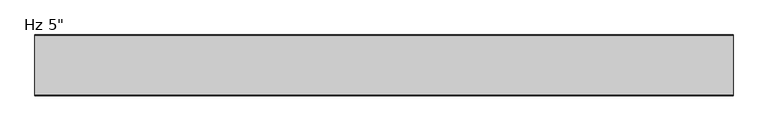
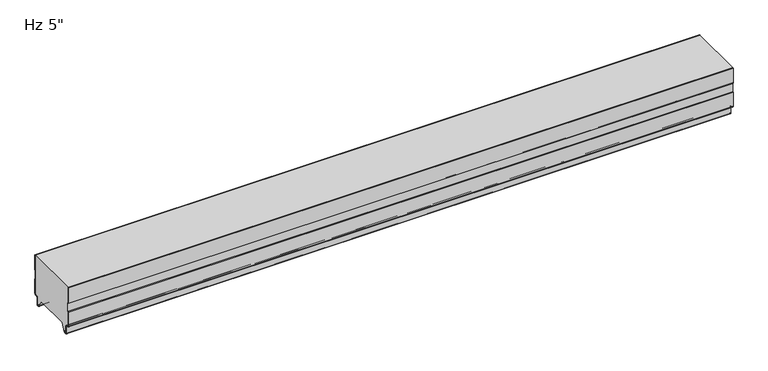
"""IFC4 building model written with IfcOpenShell, lengths in millimetres: plate geometry."""

from ifc_helpers import new_model, si_unit, frame, origin, place, context, project, spatial, polyline, circle_curve, source, transform, mapped, element, save
from ifc_brep_helpers import plane_surface, cylinder_surface, revolved_surface, advanced_brep


def plate_c02493ae(model_context):
    return source(origin(), model_context, "Body", "AdvancedBrep", [
        advanced_brep(
        [(-730.0, -1.0, 59.9218553), (-730.0, -1.0, 94.95), (-730.0, 0.0, 94.95), (-730.0, 0.0, 59.479416), (-730.0, -1.1911595, 58.4068912), (-730.0, -1.1911595, 39.5087751), (-730.0, 0.0, 38.4362503), (-730.0, 0.0, 5.8272193), (-730.0, -2.9772904, 2.8499526), (-730.0, -5.2691742, 2.8499526), (-730.0, -8.2464427, -0.1273159), (-730.0, -8.2464427, -15.7237419), (-730.0, -9.8343193, -17.3116185), (-730.0, -12.905868, -17.3116185), (-730.0, -14.4937445, -15.7237419), (-730.0, -14.4937445, -13.3687064), (-730.0, -13.4937445, -13.3687064), (-730.0, -13.4937445, -15.7237419), (-730.0, -12.905868, -16.3116185), (-730.0, -9.8343193, -16.3116185), (-730.0, -9.2464427, -15.7237419), (-730.0, -9.2464427, -0.1273159), (-730.0, -5.2691742, 3.8499526), (-730.0, -2.9772904, 3.8499526), (-730.0, -1.0000218, 5.82722), (-730.0, -1.0, 37.993811), (-730.0, -2.1911595, 39.0663358), (-730.0, -2.1911595, 58.8493305), (730.0, 0.0, 59.479416), (730.0, 0.0, 94.95), (730.0, -1.0, 94.95), (730.0, -1.0, 59.9218553), (730.0, -2.1911595, 58.8493305), (730.0, -2.1911595, 39.0663358), (730.0, -1.0, 37.993811), (730.0, -1.0, 5.82722), (730.0, -2.9772904, 3.8499526), (730.0, -5.2691742, 3.8499526), (730.0, -9.2464427, -0.1273159), (730.0, -9.2464427, -15.7237419), (730.0, -9.8343193, -16.3116185), (730.0, -12.905868, -16.3116185), (730.0, -13.4937445, -15.7237419), (730.0, -13.4937445, -13.3687064), (730.0, -14.4937445, -13.3687064), (730.0, -14.4937445, -15.7237419), (730.0, -12.905868, -17.3116185), (730.0, -9.8343193, -17.3116185), (730.0, -8.2464427, -15.7237419), (730.0, -8.2464427, -0.1273159), (730.0, -5.2691742, 2.8499526), (730.0, -2.9772904, 2.8499526), (730.0, -2.18e-05, 5.8272193), (730.0, 0.0, 38.4362503), (730.0, -1.1911595, 39.5087751), (730.0, -1.1911595, 58.4068912)],
        [
            (0, 1),
            (1, 2),
            (2, 3),
            (3, 4),
            (4, 5),
            (5, 6),
            (6, 7),
            (7, 8, circle_curve(frame((-730.0, -2.9772904, 5.8272211), z_axis=(-1.0, 0.0, 0.0), x_axis=(0.0, 1.0, 0.0)), 2.9772685)),
            (8, 9),
            (9, 10, circle_curve(frame((-730.0, -5.2691742, -0.1273159), z_axis=(1.0, 0.0, 0.0), x_axis=(0.0, 1.0, 0.0)), 2.9772685)),
            (10, 11),
            (11, 12, circle_curve(frame((-730.0, -9.8343193, -15.7237419), z_axis=(-1.0, 0.0, 0.0), x_axis=(0.0, 1.0, 0.0)), 1.5878765)),
            (12, 13),
            (13, 14, circle_curve(frame((-730.0, -12.905868, -15.7237419), z_axis=(-1.0, 0.0, 0.0), x_axis=(0.0, 1.0, 0.0)), 1.5878765)),
            (14, 15),
            (15, 16),
            (16, 17),
            (17, 18, circle_curve(frame((-730.0, -12.905868, -15.7237419), z_axis=(1.0, 0.0, 0.0), x_axis=(0.0, 1.0, 0.0)), 0.5878765)),
            (18, 19),
            (19, 20, circle_curve(frame((-730.0, -9.8343193, -15.7237419), z_axis=(1.0, 0.0, 0.0), x_axis=(0.0, 1.0, 0.0)), 0.5878765)),
            (20, 21),
            (21, 22, circle_curve(frame((-730.0, -5.2691742, -0.1273159), z_axis=(-1.0, 0.0, 0.0), x_axis=(0.0, 1.0, 0.0)), 3.9772685)),
            (22, 23),
            (23, 24, circle_curve(frame((-730.0, -2.9772904, 5.8272212), z_axis=(1.0, 0.0, 0.0), x_axis=(0.0, 1.0, 0.0)), 1.9772685)),
            (24, 25),
            (25, 26),
            (26, 27),
            (27, 0),
            (28, 29),
            (29, 30),
            (30, 31),
            (31, 32),
            (32, 33),
            (33, 34),
            (34, 35),
            (35, 36, circle_curve(frame((730.0, -2.9772904, 5.8272212), z_axis=(-1.0, 0.0, 0.0), x_axis=(0.0, 1.0, 0.0)), 1.9772685)),
            (36, 37),
            (37, 38, circle_curve(frame((730.0, -5.2691742, -0.1273159), z_axis=(1.0, 0.0, 0.0), x_axis=(0.0, 1.0, 0.0)), 3.9772685)),
            (38, 39),
            (39, 40, circle_curve(frame((730.0, -9.8343193, -15.7237419), z_axis=(-1.0, 0.0, 0.0), x_axis=(0.0, 1.0, 0.0)), 0.5878765)),
            (40, 41),
            (41, 42, circle_curve(frame((730.0, -12.905868, -15.7237419), z_axis=(-1.0, 0.0, 0.0), x_axis=(0.0, 1.0, 0.0)), 0.5878765)),
            (42, 43),
            (43, 44),
            (44, 45),
            (45, 46, circle_curve(frame((730.0, -12.905868, -15.7237419), z_axis=(1.0, 0.0, 0.0), x_axis=(0.0, 1.0, 0.0)), 1.5878765)),
            (46, 47),
            (47, 48, circle_curve(frame((730.0, -9.8343193, -15.7237419), z_axis=(1.0, 0.0, 0.0), x_axis=(0.0, 1.0, 0.0)), 1.5878765)),
            (48, 49),
            (49, 50, circle_curve(frame((730.0, -5.2691742, -0.1273159), z_axis=(-1.0, 0.0, 0.0), x_axis=(0.0, 1.0, 0.0)), 2.9772685)),
            (50, 51),
            (51, 52, circle_curve(frame((730.0, -2.9772904, 5.8272211), z_axis=(1.0, 0.0, 0.0), x_axis=(0.0, 1.0, 0.0)), 2.9772685)),
            (52, 53),
            (53, 54),
            (54, 55),
            (55, 28),
            (30, 1),
            (0, 31),
            (27, 32),
            (26, 33),
            (25, 34),
            (24, 35),
            (23, 36),
            (22, 37),
            (21, 38),
            (20, 39),
            (19, 40),
            (18, 41),
            (17, 42),
            (16, 43),
            (15, 44),
            (14, 45),
            (13, 46),
            (12, 47),
            (11, 48),
            (10, 49),
            (9, 50),
            (8, 51),
            (7, 52),
            (6, 53),
            (5, 54),
            (4, 55),
            (3, 28),
            (2, 29),
        ],
        [
            plane_surface(frame((-730.0, 0.0, 576.2625), z_axis=(-1.0, 0.0, 0.0), x_axis=(0.0, 1.0, 0.0))),
            plane_surface(frame((730.0, 0.0, 576.2625), z_axis=(1.0, 0.0, 0.0), x_axis=(0.0, 1.0, 0.0))),
            plane_surface(frame((-730.0, -1.0, 113.6164312), z_axis=(0.0, -1.0, 0.0), x_axis=(1.0, 0.0, 0.0))),
            plane_surface(frame((-730.0, -1.0, 59.9218553), z_axis=(0.0, -0.6691306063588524, 0.7431448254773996), x_axis=(1.0, 0.0, 0.0))),
            plane_surface(frame((-730.0, -2.1911595, 58.8493305), z_axis=(0.0, -1.0, 0.0), x_axis=(1.0, 0.0, 0.0))),
            plane_surface(frame((-730.0, -2.1911595, 39.0663358), z_axis=(0.0, -0.6691306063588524, -0.7431448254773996), x_axis=(1.0, 0.0, 0.0))),
            plane_surface(frame((-730.0, -1.0, 37.993811), z_axis=(0.0, -1.0, 0.0), x_axis=(1.0, 0.0, 0.0))),
            revolved_surface(polyline([(730.0, -1.0000218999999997, 5.8272212), (-730.0, -1.0000218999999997, 5.8272212)]), (-730.0, -2.9772904, 5.8272212), (1.0, 0.0, 0.0)),
            plane_surface(frame((-730.0, -2.9772904, 3.8499526), z_axis=(0.0, 0.0, 1.0), x_axis=(1.0, 0.0, 0.0))),
            cylinder_surface(frame((-730.0, -5.2691742, -0.1273159), z_axis=(-1.0, 0.0, 0.0), x_axis=(0.0, 1.0, 0.0)), 3.9772685),
            plane_surface(frame((-730.0, -9.2464427, -0.1273159), z_axis=(0.0, -1.0, 0.0), x_axis=(1.0, 0.0, 0.0))),
            revolved_surface(polyline([(730.0, -9.2464428, -15.7237419), (-730.0, -9.2464428, -15.7237419)]), (-730.0, -9.8343193, -15.7237419), (1.0, 0.0, 0.0)),
            plane_surface(frame((-730.0, -9.8343193, -16.3116185), z_axis=(0.0, 0.0, 1.0), x_axis=(1.0, 0.0, 0.0))),
            revolved_surface(polyline([(730.0, -12.3179915, -15.7237419), (-730.0, -12.3179915, -15.7237419)]), (-730.0, -12.905868, -15.7237419), (1.0, 0.0, 0.0)),
            plane_surface(frame((-730.0, -13.4937445, -15.7237419), z_axis=(0.0, 1.0, 0.0), x_axis=(1.0, 0.0, 0.0))),
            plane_surface(frame((-730.0, -13.4937445, -13.3687064), z_axis=(0.0, 0.0, 1.0), x_axis=(1.0, 0.0, 0.0))),
            plane_surface(frame((-730.0, -14.4937445, -13.3687064), z_axis=(0.0, -1.0, 0.0), x_axis=(1.0, 0.0, 0.0))),
            cylinder_surface(frame((-730.0, -12.905868, -15.7237419), z_axis=(-1.0, 0.0, 0.0), x_axis=(0.0, 1.0, 0.0)), 1.5878765),
            plane_surface(frame((-730.0, -12.905868, -17.3116185), z_axis=(0.0, 0.0, -1.0), x_axis=(1.0, 0.0, 0.0))),
            cylinder_surface(frame((-730.0, -9.8343193, -15.7237419), z_axis=(-1.0, 0.0, 0.0), x_axis=(0.0, 1.0, 0.0)), 1.5878765),
            plane_surface(frame((-730.0, -8.2464427, -15.7237419), z_axis=(0.0, 1.0, 0.0), x_axis=(1.0, 0.0, 0.0))),
            revolved_surface(polyline([(730.0, -2.2919057, -0.1273159), (-730.0, -2.2919057, -0.1273159)]), (-730.0, -5.2691742, -0.1273159), (1.0, 0.0, 0.0)),
            plane_surface(frame((-730.0, -5.2691742, 2.8499526), z_axis=(0.0, 0.0, -1.0), x_axis=(1.0, 0.0, 0.0))),
            cylinder_surface(frame((-730.0, -2.9772904, 5.8272211), z_axis=(-1.0, 0.0, 0.0), x_axis=(0.0, 1.0, 0.0)), 2.9772685),
            plane_surface(frame((-730.0, 0.0, 5.8272193), z_axis=(0.0, 1.0, 0.0), x_axis=(1.0, 0.0, 0.0))),
            plane_surface(frame((-730.0, 0.0, 38.4362503), z_axis=(0.0, 0.6691306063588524, 0.7431448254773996), x_axis=(1.0, 0.0, 0.0))),
            plane_surface(frame((-730.0, -1.1911595, 39.5087751), z_axis=(0.0, 1.0, 0.0), x_axis=(1.0, 0.0, 0.0))),
            plane_surface(frame((-730.0, -1.1911595, 58.4068912), z_axis=(0.0, 0.6691306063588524, -0.7431448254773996), x_axis=(1.0, 0.0, 0.0))),
            plane_surface(frame((-730.0, 0.0, 59.479416), z_axis=(0.0, 1.0, 0.0), x_axis=(1.0, 0.0, 0.0))),
            plane_surface(frame((730.0, 10.0, 94.95), z_axis=(0.0, 0.0, 1.0), x_axis=(-1.0, 0.0, 0.0))),
        ],
        [
            (0, [[1, 2, 3, 4, 5, 6, 7, 8, 9, 10, 11, 12, 13, 14, 15, 16, 17, 18, 19, 20, 21, 22, 23, 24, 25, 26, 27, 28]]),
            (1, [[29, 30, 31, 32, 33, 34, 35, 36, 37, 38, 39, 40, 41, 42, 43, 44, 45, 46, 47, 48, 49, 50, 51, 52, 53, 54, 55, 56]]),
            (2, [[-31, 57, -1, 58]]),
            (3, [[59, -32, -58, -28]]),
            (4, [[60, -33, -59, -27]]),
            (5, [[61, -34, -60, -26]]),
            (6, [[62, -35, -61, -25]]),
            (7, [[63, -36, -62, -24]]),
            (8, [[64, -37, -63, -23]]),
            (9, [[65, -38, -64, -22]]),
            (10, [[66, -39, -65, -21]]),
            (11, [[67, -40, -66, -20]]),
            (12, [[68, -41, -67, -19]]),
            (13, [[69, -42, -68, -18]]),
            (14, [[70, -43, -69, -17]]),
            (15, [[71, -44, -70, -16]]),
            (16, [[72, -45, -71, -15]]),
            (17, [[73, -46, -72, -14]]),
            (18, [[74, -47, -73, -13]]),
            (19, [[75, -48, -74, -12]]),
            (20, [[76, -49, -75, -11]]),
            (21, [[77, -50, -76, -10]]),
            (22, [[78, -51, -77, -9]]),
            (23, [[79, -52, -78, -8]]),
            (24, [[80, -53, -79, -7]]),
            (25, [[81, -54, -80, -6]]),
            (26, [[82, -55, -81, -5]]),
            (27, [[83, -56, -82, -4]]),
            (28, [[-3, 84, -29, -83]]),
            (29, [[-57, -30, -84, -2]]),
        ],
    ),
        advanced_brep(
        [(-730.0, -127.0, 59.479416), (-730.0, -127.0, 94.95), (-730.0, -126.0, 94.95), (-730.0, -126.0, 59.9218553), (-730.0, -124.8088405, 58.8493305), (-730.0, -124.8088405, 39.0663358), (-730.0, -126.0, 37.993811), (-730.0, -126.0, 5.82722), (-730.0, -124.0227096, 3.8499526), (-730.0, -121.7308258, 3.8499526), (-730.0, -117.7535573, -0.1273159), (-730.0, -117.7535573, -15.7237419), (-730.0, -117.1656807, -16.3116185), (-730.0, -114.094132, -16.3116185), (-730.0, -113.5062555, -15.7237419), (-730.0, -113.5062555, -13.3687064), (-730.0, -112.5062555, -13.3687064), (-730.0, -112.5062555, -15.7237419), (-730.0, -114.094132, -17.3116185), (-730.0, -117.1656807, -17.3116185), (-730.0, -118.7535573, -15.7237419), (-730.0, -118.7535573, -0.1273159), (-730.0, -121.7308258, 2.8499526), (-730.0, -124.0227096, 2.8499526), (-730.0, -126.9999782, 5.8272193), (-730.0, -127.0, 38.4362503), (-730.0, -125.8088405, 39.5087751), (-730.0, -125.8088405, 58.4068912), (730.0, -126.0, 59.9218553), (730.0, -126.0, 94.95), (730.0, -127.0, 94.95), (730.0, -127.0, 59.479416), (730.0, -125.8088405, 58.4068912), (730.0, -125.8088405, 39.5087751), (730.0, -127.0, 38.4362503), (730.0, -127.0, 5.8272193), (730.0, -124.0227096, 2.8499526), (730.0, -121.7308258, 2.8499526), (730.0, -118.7535573, -0.1273159), (730.0, -118.7535573, -15.7237419), (730.0, -117.1656807, -17.3116185), (730.0, -114.094132, -17.3116185), (730.0, -112.5062555, -15.7237419), (730.0, -112.5062555, -13.3687064), (730.0, -113.5062555, -13.3687064), (730.0, -113.5062555, -15.7237419), (730.0, -114.094132, -16.3116185), (730.0, -117.1656807, -16.3116185), (730.0, -117.7535573, -15.7237419), (730.0, -117.7535573, -0.1273159), (730.0, -121.7308258, 3.8499526), (730.0, -124.0227096, 3.8499526), (730.0, -125.9999782, 5.82722), (730.0, -126.0, 37.993811), (730.0, -124.8088405, 39.0663358), (730.0, -124.8088405, 58.8493305)],
        [
            (0, 1),
            (1, 2),
            (2, 3),
            (3, 4),
            (4, 5),
            (5, 6),
            (6, 7),
            (7, 8, circle_curve(frame((-730.0, -124.0227096, 5.8272212), z_axis=(1.0, 0.0, 0.0), x_axis=(0.0, 0.0, -1.0)), 1.9772685)),
            (8, 9),
            (9, 10, circle_curve(frame((-730.0, -121.7308258, -0.1273159), z_axis=(-1.0, 0.0, 0.0), x_axis=(0.0, 0.0, -1.0)), 3.9772685)),
            (10, 11),
            (11, 12, circle_curve(frame((-730.0, -117.1656807, -15.7237419), z_axis=(1.0, 0.0, 0.0), x_axis=(0.0, 0.0, -1.0)), 0.5878765)),
            (12, 13),
            (13, 14, circle_curve(frame((-730.0, -114.094132, -15.7237419), z_axis=(1.0, 0.0, 0.0), x_axis=(0.0, 0.0, -1.0)), 0.5878765)),
            (14, 15),
            (15, 16),
            (16, 17),
            (17, 18, circle_curve(frame((-730.0, -114.094132, -15.7237419), z_axis=(-1.0, 0.0, 0.0), x_axis=(0.0, 0.0, -1.0)), 1.5878765)),
            (18, 19),
            (19, 20, circle_curve(frame((-730.0, -117.1656807, -15.7237419), z_axis=(-1.0, 0.0, 0.0), x_axis=(0.0, 0.0, -1.0)), 1.5878765)),
            (20, 21),
            (21, 22, circle_curve(frame((-730.0, -121.7308258, -0.1273159), z_axis=(1.0, 0.0, 0.0), x_axis=(0.0, 0.0, -1.0)), 2.9772685)),
            (22, 23),
            (23, 24, circle_curve(frame((-730.0, -124.0227096, 5.8272211), z_axis=(-1.0, 0.0, 0.0), x_axis=(0.0, 0.0, -1.0)), 2.9772685)),
            (24, 25),
            (25, 26),
            (26, 27),
            (27, 0),
            (28, 29),
            (29, 30),
            (30, 31),
            (31, 32),
            (32, 33),
            (33, 34),
            (34, 35),
            (35, 36, circle_curve(frame((730.0, -124.0227096, 5.8272211), z_axis=(1.0, 0.0, 0.0), x_axis=(0.0, 0.0, -1.0)), 2.9772685)),
            (36, 37),
            (37, 38, circle_curve(frame((730.0, -121.7308258, -0.1273159), z_axis=(-1.0, 0.0, 0.0), x_axis=(0.0, 0.0, -1.0)), 2.9772685)),
            (38, 39),
            (39, 40, circle_curve(frame((730.0, -117.1656807, -15.7237419), z_axis=(1.0, 0.0, 0.0), x_axis=(0.0, 0.0, -1.0)), 1.5878765)),
            (40, 41),
            (41, 42, circle_curve(frame((730.0, -114.094132, -15.7237419), z_axis=(1.0, 0.0, 0.0), x_axis=(0.0, 0.0, -1.0)), 1.5878765)),
            (42, 43),
            (43, 44),
            (44, 45),
            (45, 46, circle_curve(frame((730.0, -114.094132, -15.7237419), z_axis=(-1.0, 0.0, 0.0), x_axis=(0.0, 0.0, -1.0)), 0.5878765)),
            (46, 47),
            (47, 48, circle_curve(frame((730.0, -117.1656807, -15.7237419), z_axis=(-1.0, 0.0, 0.0), x_axis=(0.0, 0.0, -1.0)), 0.5878765)),
            (48, 49),
            (49, 50, circle_curve(frame((730.0, -121.7308258, -0.1273159), z_axis=(1.0, 0.0, 0.0), x_axis=(0.0, 0.0, -1.0)), 3.9772685)),
            (50, 51),
            (51, 52, circle_curve(frame((730.0, -124.0227096, 5.8272212), z_axis=(-1.0, 0.0, 0.0), x_axis=(0.0, 0.0, -1.0)), 1.9772685)),
            (52, 53),
            (53, 54),
            (54, 55),
            (55, 28),
            (1, 30),
            (29, 2),
            (0, 31),
            (27, 32),
            (26, 33),
            (25, 34),
            (24, 35),
            (23, 36),
            (22, 37),
            (21, 38),
            (20, 39),
            (19, 40),
            (18, 41),
            (17, 42),
            (16, 43),
            (15, 44),
            (14, 45),
            (13, 46),
            (12, 47),
            (11, 48),
            (10, 49),
            (9, 50),
            (8, 51),
            (7, 52),
            (6, 53),
            (5, 54),
            (4, 55),
            (3, 28),
        ],
        [
            plane_surface(frame((-730.0, -127.0, 576.2625), z_axis=(-1.0, 0.0, 0.0), x_axis=(0.0, -1.0, 0.0))),
            plane_surface(frame((730.0, -127.0, 576.2625), z_axis=(1.0, 0.0, 0.0), x_axis=(0.0, -1.0, 0.0))),
            plane_surface(frame((730.0, 10.0, 94.95), z_axis=(0.0, 0.0, 1.0), x_axis=(-1.0, 0.0, 0.0))),
            plane_surface(frame((-730.0, -127.0, 114.0588705), z_axis=(0.0, -1.0, 0.0), x_axis=(1.0, 0.0, 0.0))),
            plane_surface(frame((-730.0, -127.0, 59.479416), z_axis=(0.0, -0.6691306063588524, -0.7431448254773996), x_axis=(1.0, 0.0, 0.0))),
            plane_surface(frame((-730.0, -125.8088405, 58.4068912), z_axis=(0.0, -1.0, 0.0), x_axis=(1.0, 0.0, 0.0))),
            plane_surface(frame((-730.0, -125.8088405, 39.5087751), z_axis=(0.0, -0.6691306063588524, 0.7431448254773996), x_axis=(1.0, 0.0, 0.0))),
            plane_surface(frame((-730.0, -127.0, 38.4362503), z_axis=(0.0, -1.0, 0.0), x_axis=(1.0, 0.0, 0.0))),
            cylinder_surface(frame((-730.0, -124.0227096, 5.8272211), z_axis=(-1.0, 0.0, 0.0), x_axis=(0.0, 0.0, -1.0)), 2.9772685),
            plane_surface(frame((-730.0, -124.0227096, 2.8499526), z_axis=(0.0, 0.0, -1.0), x_axis=(1.0, 0.0, 0.0))),
            revolved_surface(polyline([(730.0, -121.7308258, -3.1045844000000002), (-730.0, -121.7308258, -3.1045844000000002)]), (-730.0, -121.7308258, -0.1273159), (1.0, 0.0, 0.0)),
            plane_surface(frame((-730.0, -118.7535573, -0.1273159), z_axis=(0.0, -1.0, 0.0), x_axis=(1.0, 0.0, 0.0))),
            cylinder_surface(frame((-730.0, -117.1656807, -15.7237419), z_axis=(-1.0, 0.0, 0.0), x_axis=(0.0, 0.0, -1.0)), 1.5878765),
            plane_surface(frame((-730.0, -117.1656807, -17.3116185), z_axis=(0.0, 0.0, -1.0), x_axis=(1.0, 0.0, 0.0))),
            cylinder_surface(frame((-730.0, -114.094132, -15.7237419), z_axis=(-1.0, 0.0, 0.0), x_axis=(0.0, 0.0, -1.0)), 1.5878765),
            plane_surface(frame((-730.0, -112.5062555, -15.7237419), z_axis=(0.0, 1.0, 0.0), x_axis=(1.0, 0.0, 0.0))),
            plane_surface(frame((-730.0, -112.5062555, -13.3687064), z_axis=(0.0, 0.0, 1.0), x_axis=(1.0, 0.0, 0.0))),
            plane_surface(frame((-730.0, -113.5062555, -13.3687064), z_axis=(0.0, -1.0, 0.0), x_axis=(1.0, 0.0, 0.0))),
            revolved_surface(polyline([(730.0, -114.094132, -16.3116184), (-730.0, -114.094132, -16.3116184)]), (-730.0, -114.094132, -15.7237419), (1.0, 0.0, 0.0)),
            plane_surface(frame((-730.0, -114.094132, -16.3116185), z_axis=(0.0, 0.0, 1.0), x_axis=(1.0, 0.0, 0.0))),
            revolved_surface(polyline([(730.0, -117.1656807, -16.3116184), (-730.0, -117.1656807, -16.3116184)]), (-730.0, -117.1656807, -15.7237419), (1.0, 0.0, 0.0)),
            plane_surface(frame((-730.0, -117.7535573, -15.7237419), z_axis=(0.0, 1.0, 0.0), x_axis=(1.0, 0.0, 0.0))),
            cylinder_surface(frame((-730.0, -121.7308258, -0.1273159), z_axis=(-1.0, 0.0, 0.0), x_axis=(0.0, 0.0, -1.0)), 3.9772685),
            plane_surface(frame((-730.0, -121.7308258, 3.8499526), z_axis=(0.0, 0.0, 1.0), x_axis=(1.0, 0.0, 0.0))),
            revolved_surface(polyline([(730.0, -124.0227096, 3.8499527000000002), (-730.0, -124.0227096, 3.8499527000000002)]), (-730.0, -124.0227096, 5.8272212), (1.0, 0.0, 0.0)),
            plane_surface(frame((-730.0, -126.0, 5.82722), z_axis=(0.0, 1.0, 0.0), x_axis=(1.0, 0.0, 0.0))),
            plane_surface(frame((-730.0, -126.0, 37.993811), z_axis=(0.0, 0.6691306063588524, -0.7431448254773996), x_axis=(1.0, 0.0, 0.0))),
            plane_surface(frame((-730.0, -124.8088405, 39.0663358), z_axis=(0.0, 1.0, 0.0), x_axis=(1.0, 0.0, 0.0))),
            plane_surface(frame((-730.0, -124.8088405, 58.8493305), z_axis=(0.0, 0.6691306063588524, 0.7431448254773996), x_axis=(1.0, 0.0, 0.0))),
            plane_surface(frame((-730.0, -126.0, 59.9218553), z_axis=(0.0, 1.0, 0.0), x_axis=(1.0, 0.0, 0.0))),
        ],
        [
            (0, [[1, 2, 3, 4, 5, 6, 7, 8, 9, 10, 11, 12, 13, 14, 15, 16, 17, 18, 19, 20, 21, 22, 23, 24, 25, 26, 27, 28]]),
            (1, [[29, 30, 31, 32, 33, 34, 35, 36, 37, 38, 39, 40, 41, 42, 43, 44, 45, 46, 47, 48, 49, 50, 51, 52, 53, 54, 55, 56]]),
            (2, [[57, -30, 58, -2]]),
            (3, [[-31, -57, -1, 59]]),
            (4, [[60, -32, -59, -28]]),
            (5, [[61, -33, -60, -27]]),
            (6, [[62, -34, -61, -26]]),
            (7, [[63, -35, -62, -25]]),
            (8, [[64, -36, -63, -24]]),
            (9, [[65, -37, -64, -23]]),
            (10, [[66, -38, -65, -22]]),
            (11, [[67, -39, -66, -21]]),
            (12, [[68, -40, -67, -20]]),
            (13, [[69, -41, -68, -19]]),
            (14, [[70, -42, -69, -18]]),
            (15, [[71, -43, -70, -17]]),
            (16, [[72, -44, -71, -16]]),
            (17, [[73, -45, -72, -15]]),
            (18, [[74, -46, -73, -14]]),
            (19, [[75, -47, -74, -13]]),
            (20, [[76, -48, -75, -12]]),
            (21, [[77, -49, -76, -11]]),
            (22, [[78, -50, -77, -10]]),
            (23, [[79, -51, -78, -9]]),
            (24, [[80, -52, -79, -8]]),
            (25, [[81, -53, -80, -7]]),
            (26, [[82, -54, -81, -6]]),
            (27, [[83, -55, -82, -5]]),
            (28, [[84, -56, -83, -4]]),
            (29, [[-3, -58, -29, -84]]),
        ],
    ),
        advanced_brep(
        [(-730.0, -126.0, 59.9218553), (-730.0, -126.0, 94.95), (-730.0, -1.0, 94.95), (-730.0, -1.0, 59.9218553), (-730.0, -2.1911595, 58.8493305), (-730.0, -2.1911595, 39.0663358), (-730.0, -1.0000109, 37.993811), (-730.0, -1.0000109, 5.8272239), (-730.0, -2.9772849, 3.8499499), (-730.0, -5.2691749, 3.8499499), (-730.0, -9.246442, -0.1273173), (-730.0, -9.246442, -15.7237417), (-730.0, -9.8343189, -16.3116186), (-730.0, -12.9058679, -16.3116186), (-730.0, -13.4937446, -15.723742), (-730.0, -13.4937446, -13.3687064), (-730.0, -14.4937446, -13.3687064), (-730.0, -14.4937446, -15.6582851), (-730.0, -23.7509179, 0.0), (-730.0, -103.2490865, 0.0), (-730.0, -112.5062554, -15.6582851), (-730.0, -112.5062554, -13.3687064), (-730.0, -113.5062554, -13.3687064), (-730.0, -113.5062554, -15.723742), (-730.0, -114.0941321, -16.3116186), (-730.0, -117.1656811, -16.3116186), (-730.0, -117.753558, -15.7237417), (-730.0, -117.753558, -0.1273173), (-730.0, -121.7308251, 3.8499499), (-730.0, -124.0227151, 3.8499499), (-730.0, -125.9999891, 5.8272239), (-730.0, -125.9999891, 37.993811), (-730.0, -124.8088405, 39.0663358), (-730.0, -124.8088405, 58.8493305), (730.0, -103.2490865, 0.0), (730.0, -23.7509179, 0.0), (730.0, -14.4937446, -15.6582851), (730.0, -14.4937446, -13.3687064), (730.0, -13.4937446, -13.3687064), (730.0, -13.4937446, -15.723742), (730.0, -12.9058679, -16.3116186), (730.0, -9.8343189, -16.3116186), (730.0, -9.246442, -15.7237417), (730.0, -9.246442, -0.1273173), (730.0, -5.2691749, 3.8499499), (730.0, -2.9772849, 3.8499499), (730.0, -1.0000109, 5.8272239), (730.0, -1.0000109, 37.993811), (730.0, -2.1911595, 39.0663358), (730.0, -2.1911595, 58.8493305), (730.0, -1.0, 59.9218553), (730.0, -1.0, 94.95), (730.0, -126.0, 94.95), (730.0, -126.0, 59.9218553), (730.0, -124.8088405, 58.8493305), (730.0, -124.8088405, 39.0663358), (730.0, -125.9999891, 37.993811), (730.0, -125.9999891, 5.8272239), (730.0, -124.0227151, 3.8499499), (730.0, -121.7308251, 3.8499499), (730.0, -117.753558, -0.1273173), (730.0, -117.753558, -15.7237417), (730.0, -117.1656811, -16.3116186), (730.0, -114.0941321, -16.3116186), (730.0, -113.5062554, -15.723742), (730.0, -113.5062554, -13.3687064), (730.0, -112.5062554, -13.3687064), (730.0, -112.5062554, -15.6582851)],
        [
            (0, 1),
            (1, 2),
            (2, 3),
            (3, 4),
            (4, 5),
            (5, 6),
            (6, 7),
            (7, 8, circle_curve(frame((-730.0, -2.9772849, 5.8272239), z_axis=(-1.0, 0.0, 0.0), x_axis=(0.0, 1.0, 0.0)), 1.977274)),
            (8, 9),
            (9, 10, circle_curve(frame((-730.0, -5.2691749, -0.1273173), z_axis=(1.0, 0.0, 0.0), x_axis=(0.0, 1.0, 0.0)), 3.9772671)),
            (10, 11),
            (11, 12, circle_curve(frame((-730.0, -9.8343189, -15.7237417), z_axis=(-1.0, 0.0, 0.0), x_axis=(0.0, 1.0, 0.0)), 0.5878769)),
            (12, 13),
            (13, 14, circle_curve(frame((-730.0, -12.9058679, -15.723742), z_axis=(-1.0, 0.0, 0.0), x_axis=(0.0, 1.0, 0.0)), 0.5878766)),
            (14, 15),
            (15, 16),
            (16, 17),
            (17, 18),
            (18, 19),
            (19, 20),
            (20, 21),
            (21, 22),
            (22, 23),
            (23, 24, circle_curve(frame((-730.0, -114.0941321, -15.723742), z_axis=(-1.0, 0.0, 0.0), x_axis=(0.0, 0.0, -1.0)), 0.5878766)),
            (24, 25),
            (25, 26, circle_curve(frame((-730.0, -117.1656811, -15.7237417), z_axis=(-1.0, 0.0, 0.0), x_axis=(0.0, 0.0, -1.0)), 0.5878769)),
            (26, 27),
            (27, 28, circle_curve(frame((-730.0, -121.7308251, -0.1273173), z_axis=(1.0, 0.0, 0.0), x_axis=(0.0, 0.0, -1.0)), 3.9772671)),
            (28, 29),
            (29, 30, circle_curve(frame((-730.0, -124.0227151, 5.8272239), z_axis=(-1.0, 0.0, 0.0), x_axis=(0.0, 0.0, -1.0)), 1.977274)),
            (30, 31),
            (31, 32),
            (32, 33),
            (33, 0),
            (34, 35),
            (35, 36),
            (36, 37),
            (37, 38),
            (38, 39),
            (39, 40, circle_curve(frame((730.0, -12.9058679, -15.723742), z_axis=(1.0, 0.0, 0.0), x_axis=(0.0, 1.0, 0.0)), 0.5878766)),
            (40, 41),
            (41, 42, circle_curve(frame((730.0, -9.8343189, -15.7237417), z_axis=(1.0, 0.0, 0.0), x_axis=(0.0, 1.0, 0.0)), 0.5878769)),
            (42, 43),
            (43, 44, circle_curve(frame((730.0, -5.2691749, -0.1273173), z_axis=(-1.0, 0.0, 0.0), x_axis=(0.0, 1.0, 0.0)), 3.9772671)),
            (44, 45),
            (45, 46, circle_curve(frame((730.0, -2.9772849, 5.8272239), z_axis=(1.0, 0.0, 0.0), x_axis=(0.0, 1.0, 0.0)), 1.977274)),
            (46, 47),
            (47, 48),
            (48, 49),
            (49, 50),
            (50, 51),
            (51, 52),
            (52, 53),
            (53, 54),
            (54, 55),
            (55, 56),
            (56, 57),
            (57, 58, circle_curve(frame((730.0, -124.0227151, 5.8272239), z_axis=(1.0, 0.0, 0.0), x_axis=(0.0, 0.0, -1.0)), 1.977274)),
            (58, 59),
            (59, 60, circle_curve(frame((730.0, -121.7308251, -0.1273173), z_axis=(-1.0, 0.0, 0.0), x_axis=(0.0, 0.0, -1.0)), 3.9772671)),
            (60, 61),
            (61, 62, circle_curve(frame((730.0, -117.1656811, -15.7237417), z_axis=(1.0, 0.0, 0.0), x_axis=(0.0, 0.0, -1.0)), 0.5878769)),
            (62, 63),
            (63, 64, circle_curve(frame((730.0, -114.0941321, -15.723742), z_axis=(1.0, 0.0, 0.0), x_axis=(0.0, 0.0, -1.0)), 0.5878766)),
            (64, 65),
            (65, 66),
            (66, 67),
            (67, 34),
            (17, 36),
            (35, 18),
            (16, 37),
            (15, 38),
            (14, 39),
            (13, 40),
            (12, 41),
            (11, 42),
            (10, 43),
            (9, 44),
            (8, 45),
            (7, 46),
            (6, 47),
            (5, 48),
            (4, 49),
            (3, 50),
            (2, 51),
            (34, 19),
            (1, 52),
            (0, 53),
            (33, 54),
            (32, 55),
            (31, 56),
            (30, 57),
            (29, 58),
            (28, 59),
            (27, 60),
            (26, 61),
            (25, 62),
            (24, 63),
            (23, 64),
            (22, 65),
            (21, 66),
            (20, 67),
        ],
        [
            plane_surface(frame((-730.0, -126.0, 576.2625), z_axis=(-1.0, 0.0, 0.0), x_axis=(0.0, -1.0, 0.0))),
            plane_surface(frame((730.0, -126.0, 576.2625), z_axis=(1.0, 0.0, 0.0), x_axis=(0.0, -1.0, 0.0))),
            plane_surface(frame((-730.0, -23.7509179, 0.0), z_axis=(0.0, -0.8608169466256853, -0.5089147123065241), x_axis=(1.0, 0.0, 0.0))),
            plane_surface(frame((-730.0, -14.4937446, -15.6582851), z_axis=(0.0, 1.0, 0.0), x_axis=(1.0, 0.0, 0.0))),
            plane_surface(frame((-730.0, -14.4937446, -13.3687064), z_axis=(0.0, 0.0, -1.0), x_axis=(1.0, 0.0, 0.0))),
            plane_surface(frame((-730.0, -13.4937446, -13.3687064), z_axis=(0.0, -1.0, 0.0), x_axis=(1.0, 0.0, 0.0))),
            cylinder_surface(frame((-730.0, -12.9058679, -15.723742), z_axis=(-1.0, 0.0, 0.0), x_axis=(0.0, 1.0, 0.0)), 0.5878766),
            plane_surface(frame((-730.0, -12.9058679, -16.3116186), z_axis=(0.0, 0.0, -1.0), x_axis=(1.0, 0.0, 0.0))),
            cylinder_surface(frame((-730.0, -9.8343189, -15.7237417), z_axis=(-1.0, 0.0, 0.0), x_axis=(0.0, 1.0, 0.0)), 0.5878769),
            plane_surface(frame((-730.0, -9.246442, -15.7237417), z_axis=(0.0, 1.0, 0.0), x_axis=(1.0, 0.0, 0.0))),
            revolved_surface(polyline([(730.0, -1.2919078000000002, -0.1273173), (-730.0, -1.2919078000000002, -0.1273173)]), (-730.0, -5.2691749, -0.1273173), (1.0, 0.0, 0.0)),
            plane_surface(frame((-730.0, -5.2691749, 3.8499499), z_axis=(0.0, 0.0, -1.0), x_axis=(1.0, 0.0, 0.0))),
            cylinder_surface(frame((-730.0, -2.9772849, 5.8272239), z_axis=(-1.0, 0.0, 0.0), x_axis=(0.0, 1.0, 0.0)), 1.977274),
            plane_surface(frame((-730.0, -1.0000109, 5.8272239), z_axis=(0.0, 1.0, 0.0), x_axis=(1.0, 0.0, 0.0))),
            plane_surface(frame((-730.0, -1.0000109, 37.993811), z_axis=(0.0, 0.6691339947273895, 0.7431417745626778), x_axis=(1.0, 0.0, 0.0))),
            plane_surface(frame((-730.0, -2.1911595, 39.0663358), z_axis=(0.0, 1.0, 0.0), x_axis=(1.0, 0.0, 0.0))),
            plane_surface(frame((-730.0, -2.1911595, 58.8493305), z_axis=(0.0, 0.6691306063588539, -0.7431448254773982), x_axis=(1.0, 0.0, 0.0))),
            plane_surface(frame((-730.0, -1.0, 59.9218553), z_axis=(0.0, 1.0, 0.0), x_axis=(1.0, 0.0, 0.0))),
            plane_surface(frame((-730.0, -103.2490865, 0.0), z_axis=(0.0, 0.0, -1.0), x_axis=(1.0, 0.0, 0.0))),
            plane_surface(frame((730.0, 10.0, 94.95), z_axis=(0.0, 0.0, 1.0), x_axis=(-1.0, 0.0, 0.0))),
            plane_surface(frame((-730.0, -126.0, 113.6164312), z_axis=(0.0, -1.0, 0.0), x_axis=(1.0, 0.0, 0.0))),
            plane_surface(frame((-730.0, -126.0, 59.9218553), z_axis=(0.0, -0.6691306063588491, -0.7431448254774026), x_axis=(1.0, 0.0, 0.0))),
            plane_surface(frame((-730.0, -124.8088405, 58.8493305), z_axis=(0.0, -1.0, 0.0), x_axis=(1.0, 0.0, 0.0))),
            plane_surface(frame((-730.0, -124.8088405, 39.0663358), z_axis=(0.0, -0.6691339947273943, 0.7431417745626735), x_axis=(1.0, 0.0, 0.0))),
            plane_surface(frame((-730.0, -125.9999891, 37.993811), z_axis=(0.0, -1.0, 0.0), x_axis=(1.0, 0.0, 0.0))),
            cylinder_surface(frame((-730.0, -124.0227151, 5.8272239), z_axis=(-1.0, 0.0, 0.0), x_axis=(0.0, 0.0, -1.0)), 1.977274),
            plane_surface(frame((-730.0, -124.0227151, 3.8499499), z_axis=(0.0, 0.0, -1.0), x_axis=(1.0, 0.0, 0.0))),
            revolved_surface(polyline([(730.0, -121.7308251, -4.1045844), (-730.0, -121.7308251, -4.1045844)]), (-730.0, -121.7308251, -0.1273173), (1.0, 0.0, 0.0)),
            plane_surface(frame((-730.0, -117.753558, -0.1273173), z_axis=(0.0, -1.0, 0.0), x_axis=(1.0, 0.0, 0.0))),
            cylinder_surface(frame((-730.0, -117.1656811, -15.7237417), z_axis=(-1.0, 0.0, 0.0), x_axis=(0.0, 0.0, -1.0)), 0.5878769),
            plane_surface(frame((-730.0, -117.1656811, -16.3116186), z_axis=(0.0, 0.0, -1.0), x_axis=(1.0, 0.0, 0.0))),
            cylinder_surface(frame((-730.0, -114.0941321, -15.723742), z_axis=(-1.0, 0.0, 0.0), x_axis=(0.0, 0.0, -1.0)), 0.5878766),
            plane_surface(frame((-730.0, -113.5062554, -15.723742), z_axis=(0.0, 1.0, 0.0), x_axis=(1.0, 0.0, 0.0))),
            plane_surface(frame((-730.0, -113.5062554, -13.3687064), z_axis=(0.0, 0.0, -1.0), x_axis=(1.0, 0.0, 0.0))),
            plane_surface(frame((-730.0, -112.5062554, -13.3687064), z_axis=(0.0, -1.0, 0.0), x_axis=(1.0, 0.0, 0.0))),
            plane_surface(frame((-730.0, -112.5062554, -15.6582851), z_axis=(0.0, 0.8608169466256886, -0.5089147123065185), x_axis=(1.0, 0.0, 0.0))),
        ],
        [
            (0, [[1, 2, 3, 4, 5, 6, 7, 8, 9, 10, 11, 12, 13, 14, 15, 16, 17, 18, 19, 20, 21, 22, 23, 24, 25, 26, 27, 28, 29, 30, 31, 32, 33, 34]]),
            (1, [[35, 36, 37, 38, 39, 40, 41, 42, 43, 44, 45, 46, 47, 48, 49, 50, 51, 52, 53, 54, 55, 56, 57, 58, 59, 60, 61, 62, 63, 64, 65, 66, 67, 68]]),
            (2, [[69, -36, 70, -18]]),
            (3, [[71, -37, -69, -17]]),
            (4, [[72, -38, -71, -16]]),
            (5, [[73, -39, -72, -15]]),
            (6, [[74, -40, -73, -14]]),
            (7, [[75, -41, -74, -13]]),
            (8, [[76, -42, -75, -12]]),
            (9, [[77, -43, -76, -11]]),
            (10, [[78, -44, -77, -10]]),
            (11, [[79, -45, -78, -9]]),
            (12, [[80, -46, -79, -8]]),
            (13, [[81, -47, -80, -7]]),
            (14, [[82, -48, -81, -6]]),
            (15, [[83, -49, -82, -5]]),
            (16, [[84, -50, -83, -4]]),
            (17, [[-3, 85, -51, -84]]),
            (18, [[86, -19, -70, -35]]),
            (19, [[87, -52, -85, -2]]),
            (20, [[-53, -87, -1, 88]]),
            (21, [[89, -54, -88, -34]]),
            (22, [[90, -55, -89, -33]]),
            (23, [[91, -56, -90, -32]]),
            (24, [[92, -57, -91, -31]]),
            (25, [[93, -58, -92, -30]]),
            (26, [[94, -59, -93, -29]]),
            (27, [[95, -60, -94, -28]]),
            (28, [[96, -61, -95, -27]]),
            (29, [[97, -62, -96, -26]]),
            (30, [[98, -63, -97, -25]]),
            (31, [[99, -64, -98, -24]]),
            (32, [[100, -65, -99, -23]]),
            (33, [[101, -66, -100, -22]]),
            (34, [[102, -67, -101, -21]]),
            (35, [[-86, -68, -102, -20]]),
        ],
    ),
    ])


if __name__ == "__main__":
    model = new_model("IFC4")
    model_context = context("Model", 3, world=origin())
    ifc_project = project(units=[si_unit("LENGTHUNIT", "METRE", prefix="MILLI")], contexts=[model_context])
    site = spatial("IfcSite", under=ifc_project)
    building = spatial("IfcBuilding", under=site)
    placement = place(None, origin())
    plate_shape = plate_c02493ae(model_context)
    element("IfcPlate", 1, ObjectType="KIP-SLI-FLI-R19-CP-Hz-SL_SL : Hz 5\"", at=placement, inside=building, context=model_context, shape_type="MappedRepresentation", body=[
        mapped(plate_shape, transform((0.0, 0.0, 0.0), x_axis=(1.0, 0.0, 0.0), y_axis=(0.0, 1.0, 0.0), z_axis=(0.0, 0.0, 1.0))),
    ])
    save(model, "model.ifc")
